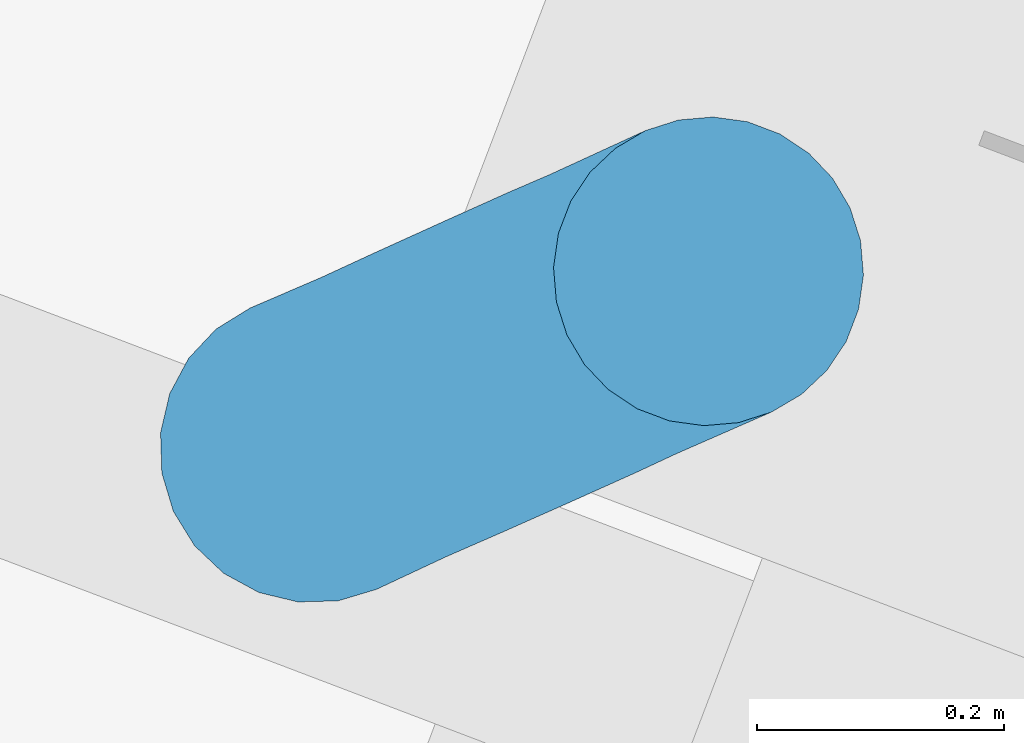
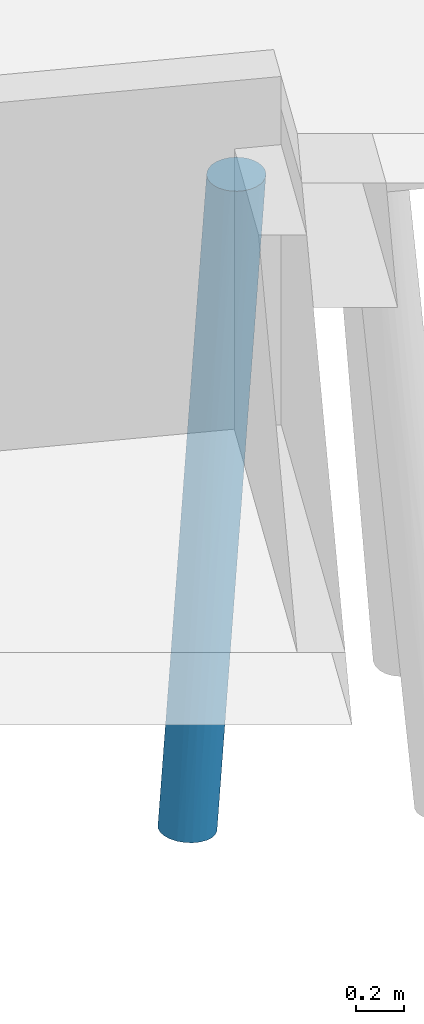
# One storey, part 9 of 46: 1 pile.
"""IFC2X3 building model written with IfcOpenShell, lengths in millimetres."""

from ifc_helpers import new_model, entity, si_unit, converted_unit, derived_unit, direction, frame, origin, place, context, subcontext, project, spatial, faceted_brep, source, transform, mapped, material, type_object, type_shapes, element, save


model = new_model("IFC2X3")

# Units and contexts
model_context = context("Model", 3, precision=0.01, world=origin(), true_north=direction((6.123233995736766e-17, 1.0)))
body_context = subcontext(model_context, "Body", "Model", "MODEL_VIEW")
ifc_project = project(units=[si_unit("LENGTHUNIT", "METRE", prefix="MILLI"), converted_unit("PLANEANGLEUNIT", "DEGREE", entity("IfcPlaneAngleMeasure", 0.017453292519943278), si_unit("PLANEANGLEUNIT", "RADIAN"), dimensions=[0, 0, 0, 0, 0, 0, 0]), si_unit("AREAUNIT", "SQUARE_METRE"), derived_unit("THERMALTRANSMITTANCEUNIT", [(si_unit("MASSUNIT", "GRAM", prefix="KILO"), 1), (si_unit("THERMODYNAMICTEMPERATUREUNIT", "KELVIN"), -1), (si_unit("TIMEUNIT", "SECOND"), -3)])], contexts=[model_context])

# Site, building, storey
site_placement = place(None, frame((-72937.88054949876, 11621.45624098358, 0.0), z_axis=(0.0, 0.0, 1.0), x_axis=(0.9346418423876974, -0.35559053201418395, 0.0)))
site = spatial("IfcSite", under=ifc_project, at=site_placement, Name="Default", CompositionType="ELEMENT")
building_placement = place(site_placement, origin())
building = spatial("IfcBuilding", under=site, at=building_placement, CompositionType="ELEMENT")
storey_placement = place(building_placement, origin())
storey = spatial("IfcBuildingStorey", under=building, at=storey_placement, Name="00 begane grond", CompositionType="ELEMENT", Elevation=0.0)

# Pile
ifc_material = material(Name="beton_gewapend_prefab-element_c45/55")
type_product = type_object("IfcTypeProduct", Name="Type 01", material=ifc_material)
shared_shape = source(origin(), body_context, "Body", "Brep", [
    faceted_brep([(50.02983679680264, 41.219149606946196, -1478.3429510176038), (41.770052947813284, 0.0, -1615.992665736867), (-21.492869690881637, 34.07967924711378, -2142.478153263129), (-196.51418126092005, 41.35907440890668, -1560.459568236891), (-209.7685117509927, 0.0, -1615.993463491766), (-120.39371842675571, 27.815116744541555, -840.0), (-105.46135978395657, 105.60554685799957, -2414.744852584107), (-29.01608810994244, 89.9027707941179, -1907.5825387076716), (-88.8773638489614, 91.39060439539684, -2432.143714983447), (44.04069234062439, 66.4881713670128, -1422.150587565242), (100.55257203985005, 77.93622523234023, -840.0), (115.53639022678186, 54.235467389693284, -840.0), (-181.63351961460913, 47.83542906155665, -3540.4622999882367), (-228.8866429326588, 32.35238063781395, -4013.333582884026), (-241.29781855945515, 62.499999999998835, -4011.9545633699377), (124.838162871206, 27.815116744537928, -840.0), (127.99146025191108, 0.0, -840.0), (80.6380595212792, 97.7289353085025, -840.0), (-1.0422673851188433, 115.29700921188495, -1306.6345347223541), (56.79144948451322, 112.62110848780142, -840.0), (-82.66188090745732, 124.23733970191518, -1479.1096584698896), (-119.59016639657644, 124.77532272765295, -1868.4753366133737), (-148.0004270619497, 121.55050259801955, -1927.9224619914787), (-25.764066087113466, 121.86598902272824, -840.0), (2.2222222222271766, 125.0, -840.0), (35.238837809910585, 88.30507823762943, -1343.9943162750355), (30.208510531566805, 121.86598902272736, -840.0), (-38.42848163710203, 123.4640225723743, -1382.7576650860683), (-59.298226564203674, 117.91120533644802, -1769.4495348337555), (-121.64165871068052, 118.88184081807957, -2304.5646505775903), (-105.46067851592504, 124.17311504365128, -1939.1271630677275), (-181.54271840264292, 0.0, -3625.807607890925), (-224.65342205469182, 0.0, -4013.803940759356), (-186.42266103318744, 99.1691675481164, -3226.87509877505), (-111.16783038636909, 79.40373738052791, -2734.7208670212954), (-187.86059930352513, 76.09517863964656, -3448.7603995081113), (-294.2594631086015, 123.9306076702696, -3360.5895502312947), (-348.8888888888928, 125.0, -4000.0), (-381.04339378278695, 120.74072828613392, -3996.4272772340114), (-71.50265177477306, 37.61355729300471, -2582.985799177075), (-105.1394697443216, 22.11026756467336, -2920.330251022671), (-119.53291308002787, 47.835429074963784, -2981.5568411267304), (-160.26870491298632, 23.53094104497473, -3414.1045295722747), (-238.88036705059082, 115.48494156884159, -3443.09153660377), (-286.7711554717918, 108.25317547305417, -4006.901970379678), (-261.04114782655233, 88.38834764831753, -4009.7608601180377), (-316.7343839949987, 120.74072828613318, -4003.5727227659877), (-61.65923548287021, 74.64816535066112, -2322.8523974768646), (-84.00174733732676, 60.02171841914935, -2608.908596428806), (-151.97718420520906, 123.99260475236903, -2371.21148137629), (-173.2739820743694, 115.31995815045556, -2856.223431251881), (-123.54701580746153, 0.0, -840.0), (-295.99000769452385, 0.0, -2391.9869269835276), (-250.82857575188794, 22.617884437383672, -2004.2180489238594), (-107.44397040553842, 105.89787173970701, -1225.6035634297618), (-76.19361507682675, 97.72893530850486, -840.0), (-52.347005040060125, 112.6211084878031, -840.0), (-281.4812245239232, 123.93060767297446, -3541.076638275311), (-109.06614769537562, 117.57336724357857, -1457.2474766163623), (-111.0919457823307, 54.235467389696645, -840.0), (-15.85514051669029, 105.72630914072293, -1606.5585830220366), (-158.7756678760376, 105.96661342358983, -1688.5825591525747), (-146.68659472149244, 88.47759853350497, -1380.5978408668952), (-404.9818286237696, 23.95962394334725, -3393.901362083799), (-384.5571817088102, 0.0, -3189.0914931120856), (-348.5966640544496, 22.310072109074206, -2883.6216315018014), (-456.47995921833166, 62.500000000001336, -3988.0454366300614), (-468.89113484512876, 32.35238063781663, -3986.6664171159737), (-416.28748070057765, 47.83542904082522, -3560.8267027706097), (-337.6622645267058, 115.48494156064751, -3465.7921474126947), (-411.00662230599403, 108.25317547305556, -3993.0980296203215), (-204.57839676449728, 89.69967503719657, -1912.868459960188), (-241.9682357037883, 100.09571921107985, -2359.71747411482), (-255.69185443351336, 84.13968982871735, -2324.129304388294), (-96.10812759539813, 77.93622523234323, -840.0), (-377.92930595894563, 99.16916753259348, -3572.292603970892), (-436.73662995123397, 88.38834764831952, -3990.239139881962), (-206.9618348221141, 60.37792335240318, -1731.5361763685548), (-296.17437932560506, 43.53585544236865, -2464.5182361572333), (-358.4295495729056, 47.83542903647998, -3040.1053226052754), (-379.61635653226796, 76.09517861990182, -3378.5322028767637), (-430.0136077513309, 0.0, -3598.1993274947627), (-306.3551153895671, 77.61365432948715, -2729.901333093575), (-213.4617402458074, 118.14633713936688, -2411.4959163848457), (-159.2186646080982, 65.41382269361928, -1328.4086999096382), (-67.97340634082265, 109.92592992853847, -2010.6352011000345), (-179.43548008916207, 124.76102802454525, -2404.960456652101), (-13.219750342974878, 66.34050229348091, -1938.3332116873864), (-236.1740964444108, 124.51562049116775, -2886.015168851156), (-270.1086403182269, 119.49229851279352, -2958.6820679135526), (-268.3059733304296, 110.2317272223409, -2741.026078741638), (-320.7170568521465, 99.16916752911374, -3057.382361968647), (-473.12435572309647, 0.0, -3986.1960592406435), (-138.91569201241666, 99.37675608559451, -2796.855638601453), (-220.46267944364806, 123.93060767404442, -2991.909732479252), (-44.45135435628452, 0.0, -2391.9853314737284), (-247.1590829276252, 66.69543969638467, -2127.0964328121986), (-134.55238820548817, 0.0, -3202.8946361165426), (-89.50217198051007, 0.0, -2797.442690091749), (-340.273594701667, 0.0, -2790.5392100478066), (-303.09738986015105, 21.900839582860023, -2473.462328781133), (-246.59414544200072, 45.758522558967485, -2025.9931784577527), (-120.39371842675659, -27.815116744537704, -840.0), (-111.09194578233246, -54.23546738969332, -840.0), (-96.1081275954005, -77.93622523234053, -840.0), (-76.19361507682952, -97.72893530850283, -840.0), (-52.3470050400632, -112.62110848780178, -840.0), (-25.764066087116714, -121.86598902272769, -840.0), (2.22222222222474, -125.0, -840.0), (30.20851053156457, -121.86598902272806, -840.0), (56.7914494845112, -112.62110848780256, -840.0), (80.63805952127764, -97.72893530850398, -840.0), (100.55257203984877, -77.93622523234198, -840.0), (115.53639022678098, -54.23546738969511, -840.0), (124.83816287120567, -27.815116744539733, -840.0), (-241.96823566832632, -100.09571920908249, -2359.717473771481), (-268.30597321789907, -110.23172722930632, -2741.026077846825), (-213.46174017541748, -118.14633716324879, -2411.4959163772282), (-187.1422997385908, -67.5957584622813, -1592.1374826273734), (-196.5141812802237, -41.359074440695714, -1560.4595685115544), (-82.66188086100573, -124.2373397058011, -1479.1096583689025), (-13.219750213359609, -66.3405022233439, -1938.3332109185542), (35.23883807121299, -88.30507821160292, -1343.9943141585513), (-29.016087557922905, -89.90277069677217, -1907.5825346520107), (-109.06614766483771, -117.57336725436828, -1457.2474766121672), (-294.2594631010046, -123.93060767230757, -3360.5895503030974), (-337.66226453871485, -115.48494156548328, -3465.7921476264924), (-381.04339378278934, -120.74072828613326, -3996.4272772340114), (-320.717056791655, -99.16916754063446, -3057.382361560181), (-379.61635651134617, -76.09517863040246, -3378.53220276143), (-377.9293059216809, -99.16916753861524, -3572.292603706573), (-186.42266103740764, -99.16916753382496, -3226.875098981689), (-238.88036707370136, -115.48494156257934, -3443.0915369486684), (-286.77115547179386, -108.25317547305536, -4006.901970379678), (-228.88664293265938, -32.352380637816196, -4013.333582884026), (-181.63351956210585, -47.835429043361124, -3540.4622995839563), (-241.29781855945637, -62.50000000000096, -4011.9545633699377), (-107.44397039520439, -105.89787175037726, -1225.6035634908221), (-38.428481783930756, -123.46402262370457, -1382.7576634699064), (-468.89113484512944, -32.35238063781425, -3986.6664171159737), (-138.91569233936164, -99.37675620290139, -2796.855640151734), (-173.2739821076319, -115.31995832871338, -2856.223427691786), (-160.26870486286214, -23.530941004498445, -3414.104529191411), (-187.86059935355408, -76.09517862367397, -3448.760400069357), (-261.041147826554, -88.38834764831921, -4009.7608601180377), (-306.3551154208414, -77.61365434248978, -2729.901333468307), (-348.8888888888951, -125.0, -4000.0), (-416.2874806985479, -47.83542904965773, -3560.826702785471), (-456.47995921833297, -62.49999999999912, -3988.0454366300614), (-436.7366299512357, -88.38834764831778, -3990.239139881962), (-411.0066223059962, -108.25317547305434, -3993.0980296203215), (-71.50265159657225, -37.613557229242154, -2582.9857977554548), (-21.492869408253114, -34.07967918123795, -2142.4781508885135), (-84.00174724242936, -60.02171839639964, -2608.9085956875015), (-281.4812244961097, -123.9306076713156, -3541.076638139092), (-220.46267940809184, -123.93060767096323, -2991.9097323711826), (-158.7756678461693, -105.9666134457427, -1688.5825592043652), (-148.00042700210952, -121.5505026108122, -1927.922461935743), (-1.0422669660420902, -115.29700910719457, -1306.6345332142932), (-59.298225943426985, -117.91120535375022, -1769.4495288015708), (-15.85514048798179, -105.72630911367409, -1606.5585831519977), (-270.1086403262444, -119.4922985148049, -2958.682068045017), (50.02983688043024, -41.21914955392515, -1478.342950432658), (-146.6865947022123, -88.47759855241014, -1380.5978408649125), (-296.1743793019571, -43.53585546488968, -2464.5182360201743), (-348.59666404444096, -22.310072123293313, -2883.6216314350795), (-358.42954957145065, -47.83542905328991, -3040.1053226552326), (57.21126448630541, -65.80573689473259, -1307.4694469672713), (-67.97340649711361, -109.92593000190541, -2010.6352012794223), (-121.64165783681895, -118.88184074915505, -2304.564644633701), (-105.13946990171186, -22.110267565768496, -2920.330252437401), (-179.43547996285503, -124.76102802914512, -2404.960456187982), (-316.73438399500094, -120.7407282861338, -4003.5727227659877), (-119.53291301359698, -47.8354290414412, -2981.5568406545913), (-250.82857577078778, -22.61788446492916, -2004.218049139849), (-404.98182862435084, -23.95962395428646, -3393.901362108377), (-61.65923550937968, -74.64816548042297, -2322.852396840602), (-243.17628094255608, -45.971171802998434, -1995.9919190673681), (-105.46135971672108, -105.60554680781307, -2414.7448526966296), (-111.16783063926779, -79.40373735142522, -2734.7208695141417), (-119.59016630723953, -124.77532273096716, -1868.4753363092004), (-236.1740963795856, -124.51562049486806, -2886.0151686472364), (-204.57839665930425, -89.69967507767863, -1912.868459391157), (-247.15908295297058, -66.69543974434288, -2127.09643331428), (-88.87736442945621, -91.39060438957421, -2432.1437202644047), (-255.69185439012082, -84.13968979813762, -2324.1293037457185), (-105.46067843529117, -124.17311503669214, -1939.1271628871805), (-168.17815851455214, -123.85607816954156, -2526.387901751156), (-303.0973898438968, -21.90083960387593, -2473.4623286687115)], [[[0, 1, 2]], [[3, 4, 5]], [[6, 7, 8]], [[9, 10, 11]], [[12, 13, 14]], [[15, 16, 1]], [[17, 18, 19]], [[20, 21, 22]], [[23, 24, 20]], [[25, 17, 10]], [[26, 18, 27]], [[27, 20, 24]], [[28, 29, 30]], [[31, 32, 13]], [[33, 34, 35]], [[36, 37, 38]], [[39, 40, 41]], [[41, 42, 12]], [[43, 33, 44]], [[45, 33, 35]], [[46, 43, 44]], [[34, 47, 48]], [[49, 29, 50]], [[4, 51, 5]], [[30, 27, 28]], [[52, 4, 53]], [[54, 55, 56]], [[37, 36, 57]], [[56, 23, 58]], [[46, 37, 57]], [[59, 3, 5]], [[11, 15, 0]], [[3, 53, 4]], [[7, 60, 25]], [[44, 33, 45]], [[54, 61, 62]], [[63, 64, 65]], [[66, 67, 68]], [[36, 38, 69]], [[70, 69, 38]], [[71, 72, 73]], [[74, 55, 62]], [[75, 70, 76]], [[71, 77, 62]], [[78, 79, 65]], [[80, 75, 76]], [[63, 81, 64]], [[82, 80, 79]], [[66, 80, 76]], [[61, 83, 72]], [[59, 84, 3]], [[85, 6, 29]], [[25, 10, 9]], [[86, 21, 30]], [[35, 14, 45]], [[33, 43, 50]], [[54, 56, 58]], [[22, 58, 20]], [[87, 0, 2]], [[0, 15, 1]], [[83, 86, 88]], [[40, 42, 41]], [[89, 69, 90]], [[84, 59, 74]], [[72, 71, 61]], [[91, 80, 82]], [[79, 80, 68]], [[14, 35, 12]], [[92, 81, 67]], [[41, 35, 34]], [[48, 39, 41]], [[93, 8, 34]], [[50, 93, 33]], [[94, 43, 57]], [[36, 69, 89]], [[91, 69, 75]], [[48, 41, 34]], [[95, 2, 1]], [[91, 82, 72]], [[78, 96, 82]], [[90, 91, 72]], [[71, 62, 61]], [[13, 42, 31]], [[41, 12, 35]], [[46, 57, 43]], [[94, 57, 36]], [[97, 31, 42]], [[40, 97, 42]], [[12, 42, 13]], [[98, 97, 40, 95]], [[2, 95, 39]], [[55, 54, 62]], [[61, 54, 58]], [[83, 61, 22]], [[20, 58, 23]], [[58, 22, 61]], [[86, 83, 22]], [[88, 89, 83]], [[29, 49, 30]], [[88, 36, 89]], [[83, 89, 90]], [[40, 39, 95]], [[87, 2, 48]], [[39, 48, 2]], [[87, 48, 47]], [[87, 47, 7]], [[47, 34, 8]], [[9, 0, 87]], [[85, 60, 7]], [[17, 25, 60]], [[87, 7, 9]], [[47, 8, 7]], [[6, 8, 93]], [[50, 6, 93]], [[33, 93, 34]], [[6, 50, 29]], [[50, 43, 94]], [[60, 85, 28]], [[49, 86, 30]], [[60, 28, 18]], [[28, 27, 18]], [[26, 27, 24]], [[20, 27, 21]], [[60, 18, 17]], [[26, 19, 18]], [[84, 62, 77]], [[82, 96, 73]], [[83, 90, 72]], [[91, 90, 69]], [[88, 94, 36]], [[94, 88, 49]], [[66, 68, 80]], [[68, 67, 63]], [[63, 65, 79]], [[81, 63, 67]], [[68, 63, 79]], [[78, 82, 79]], [[65, 99, 100]], [[53, 101, 78]], [[78, 65, 100]], [[70, 75, 69]], [[91, 75, 80]], [[71, 73, 96]], [[73, 72, 82]], [[28, 85, 29]], [[6, 85, 7]], [[52, 53, 100]], [[96, 78, 101]], [[3, 84, 77]], [[62, 84, 74]], [[22, 21, 86]], [[30, 21, 27]], [[0, 9, 11]], [[25, 9, 7]], [[86, 49, 88]], [[94, 49, 50]], [[78, 100, 53]], [[65, 64, 99]], [[52, 100, 99]], [[96, 101, 77]], [[101, 53, 3]], [[3, 77, 101]], [[96, 77, 71]], [[56, 55, 74, 59, 5, 51, 102, 103, 104, 105, 106, 107, 108, 109, 110, 111, 112, 113, 114, 16, 15, 11, 10, 17, 19, 26, 24, 23]], [[4, 102, 51]], [[115, 116, 117]], [[104, 103, 118]], [[103, 102, 119]], [[108, 107, 120]], [[121, 122, 123]], [[107, 124, 120]], [[125, 126, 127]], [[128, 129, 130]], [[131, 132, 133]], [[134, 135, 136]], [[106, 105, 137]], [[109, 108, 138]], [[81, 92, 139]], [[131, 140, 141]], [[31, 97, 142]], [[143, 131, 144]], [[145, 129, 128]], [[125, 127, 146]], [[147, 139, 148]], [[130, 149, 150]], [[151, 152, 153]], [[125, 154, 155]], [[156, 157, 124]], [[158, 159, 160]], [[119, 102, 4]], [[110, 109, 158]], [[126, 125, 161]], [[162, 114, 113]], [[111, 158, 160]], [[163, 137, 105]], [[164, 165, 166]], [[122, 112, 111]], [[1, 16, 114]], [[162, 113, 167]], [[122, 121, 167]], [[168, 159, 169]], [[142, 97, 170]], [[171, 157, 117]], [[146, 172, 154]], [[104, 118, 163]], [[160, 159, 168]], [[104, 163, 105]], [[131, 133, 144]], [[115, 145, 128]], [[143, 144, 136]], [[152, 162, 121]], [[148, 149, 129]], [[151, 153, 173]], [[4, 174, 119]], [[166, 175, 147]], [[176, 121, 123]], [[177, 174, 164]], [[178, 169, 141]], [[132, 172, 133]], [[173, 179, 143]], [[180, 157, 171]], [[137, 156, 124]], [[162, 1, 114]], [[95, 1, 152]], [[126, 150, 127]], [[32, 31, 134]], [[161, 181, 117]], [[115, 156, 182]], [[177, 183, 118]], [[148, 129, 147]], [[145, 164, 166]], [[172, 132, 154]], [[165, 175, 166]], [[178, 141, 140]], [[131, 143, 179]], [[173, 143, 135]], [[140, 184, 178]], [[121, 176, 153]], [[150, 126, 130]], [[117, 116, 161]], [[162, 152, 1]], [[151, 170, 95]], [[129, 145, 166]], [[182, 156, 163]], [[182, 183, 185]], [[156, 115, 117]], [[136, 135, 143]], [[135, 134, 142]], [[146, 154, 125]], [[155, 154, 132]], [[142, 170, 173]], [[31, 142, 134]], [[135, 142, 173]], [[173, 170, 151]], [[98, 95, 170, 97]], [[124, 107, 106]], [[156, 137, 163]], [[106, 137, 124]], [[120, 124, 157]], [[120, 157, 180]], [[117, 157, 156]], [[169, 186, 187]], [[125, 181, 161]], [[128, 126, 116]], [[171, 117, 181]], [[153, 179, 173]], [[152, 151, 95]], [[179, 153, 176]], [[121, 153, 152]], [[176, 184, 179]], [[123, 168, 178]], [[184, 176, 123]], [[122, 111, 160]], [[112, 167, 113]], [[123, 122, 160]], [[131, 179, 140]], [[178, 184, 123]], [[184, 140, 179]], [[132, 131, 141]], [[141, 155, 132]], [[155, 187, 181]], [[155, 141, 187]], [[159, 186, 169]], [[186, 159, 138]], [[138, 158, 109]], [[186, 138, 180]], [[120, 138, 108]], [[159, 158, 138]], [[110, 158, 111]], [[115, 182, 185]], [[183, 182, 118]], [[161, 116, 126]], [[128, 116, 115]], [[171, 181, 187]], [[181, 125, 155]], [[139, 175, 81]], [[166, 147, 129]], [[64, 81, 175]], [[165, 64, 175]], [[147, 175, 139]], [[99, 64, 165]], [[145, 183, 164]], [[164, 188, 165]], [[4, 52, 174]], [[149, 130, 129]], [[128, 130, 126]], [[185, 145, 115]], [[145, 185, 183]], [[160, 168, 123]], [[178, 168, 169]], [[119, 174, 177]], [[164, 174, 188]], [[119, 118, 103]], [[163, 118, 182]], [[120, 180, 138]], [[186, 180, 171]], [[162, 167, 121]], [[122, 167, 112]], [[171, 187, 186]], [[169, 187, 141]], [[165, 188, 99]], [[52, 99, 188]], [[52, 188, 174]], [[119, 177, 118]], [[183, 177, 164]], [[127, 150, 149, 148, 139, 92, 67, 66, 76, 70, 38, 37, 46, 44, 45, 14, 13, 32, 134, 136, 144, 133, 172, 146]]]),
])
type_shapes(type_product, [shared_shape])
pile_placement = place(storey_placement, frame((57270.0, 21580.0, 0.0), z_axis=(0.0, 0.0, 1.0), x_axis=(0.7071067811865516, 0.7071067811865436, 0.0)))
element("IfcPile", 1, at=pile_placement, inside=storey, type_object=type_product, material=ifc_material, Name="17.21_Prefab funderingspaal rond", ObjectType="prefab paal rond", PredefinedType="NOTDEFINED", context=body_context, shape_type="MappedRepresentation", body=[
    mapped(shared_shape, transform((0.0, 0.0, 0.0), scale=1.0)),
])

save(model, "model.ifc")
